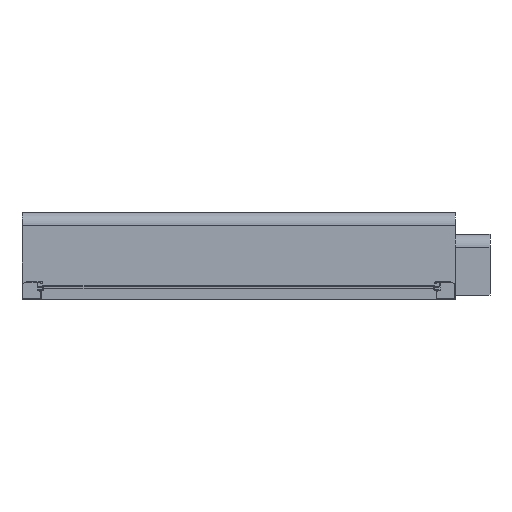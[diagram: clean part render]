
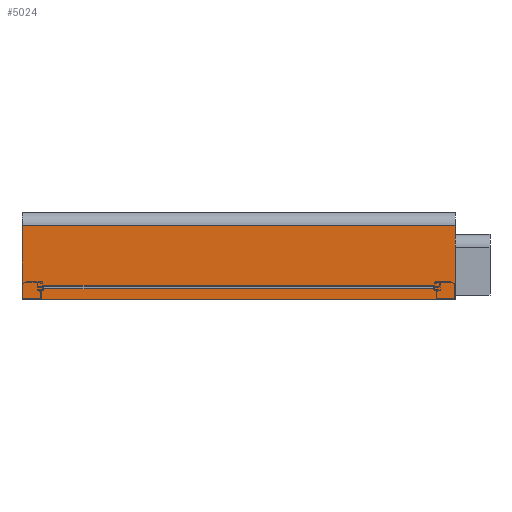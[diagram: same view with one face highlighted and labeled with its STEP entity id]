
A CAD part, front view. The second image highlights one B-rep face of the part: STEP entity #5024.
In plain terms, the highlighted planar face has unit normal (0, -1, 0).
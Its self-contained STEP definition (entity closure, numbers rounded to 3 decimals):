
#71 = CARTESIAN_POINT ( 'NONE',  ( 2500., 3000., 0. ) ) ;
#191 = LINE ( 'NONE', #12421, #10319 ) ;
#798 = VERTEX_POINT ( 'NONE', #3111 ) ;
#1491 = ORIENTED_EDGE ( 'NONE', *, *, #6504, .T. ) ;
#2123 = ORIENTED_EDGE ( 'NONE', *, *, #8708, .F. ) ;
#2347 = CARTESIAN_POINT ( 'NONE',  ( 0., 3000., 0. ) ) ;
#2594 = VERTEX_POINT ( 'NONE', #7973 ) ;
#3111 = CARTESIAN_POINT ( 'NONE',  ( 0., 3000., 0. ) ) ;
#3363 = CARTESIAN_POINT ( 'NONE',  ( 2500., 3000., 0. ) ) ;
#3651 = CARTESIAN_POINT ( 'NONE',  ( 2500., 3000., 425. ) ) ;
#3907 = ORIENTED_EDGE ( 'NONE', *, *, #8310, .T. ) ;
#5024 = ADVANCED_FACE ( 'NONE', ( #8321 ), #7724, .F. ) ;
#5938 = CARTESIAN_POINT ( 'NONE',  ( 0., 3000., 425. ) ) ;
#5971 = VECTOR ( 'NONE', #6592, 1000. ) ;
#5981 = VERTEX_POINT ( 'NONE', #13602 ) ;
#6504 = EDGE_CURVE ( 'NONE', #12177, #798, #11953, .T. ) ;
#6592 = DIRECTION ( 'NONE',  ( 0., 0., -1. ) ) ;
#6899 = DIRECTION ( 'NONE',  ( 0., 0., 1. ) ) ;
#6959 = DIRECTION ( 'NONE',  ( -1., 0., 0. ) ) ;
#7264 = VECTOR ( 'NONE', #10952, 1000. ) ;
#7724 = PLANE ( 'NONE',  #13331 ) ;
#7944 = ORIENTED_EDGE ( 'NONE', *, *, #9639, .F. ) ;
#7973 = CARTESIAN_POINT ( 'NONE',  ( 2500., 3000., 0. ) ) ;
#8135 = EDGE_LOOP ( 'NONE', ( #1491, #2123, #7944, #3907 ) ) ;
#8310 = EDGE_CURVE ( 'NONE', #5981, #12177, #13961, .T. ) ;
#8321 = FACE_OUTER_BOUND ( 'NONE', #8135, .T. ) ;
#8708 = EDGE_CURVE ( 'NONE', #2594, #798, #191, .T. ) ;
#8942 = VECTOR ( 'NONE', #11386, 1000. ) ;
#9639 = EDGE_CURVE ( 'NONE', #5981, #2594, #12201, .T. ) ;
#10319 = VECTOR ( 'NONE', #6959, 1000. ) ;
#10952 = DIRECTION ( 'NONE',  ( 0., 0., -1. ) ) ;
#11048 = DIRECTION ( 'NONE',  ( 0., 1., 0. ) ) ;
#11386 = DIRECTION ( 'NONE',  ( -1., 0., 0. ) ) ;
#11953 = LINE ( 'NONE', #2347, #7264 ) ;
#12177 = VERTEX_POINT ( 'NONE', #5938 ) ;
#12201 = LINE ( 'NONE', #71, #5971 ) ;
#12421 = CARTESIAN_POINT ( 'NONE',  ( 2500., 3000., 0. ) ) ;
#13331 = AXIS2_PLACEMENT_3D ( 'NONE', #3363, #11048, #6899 ) ;
#13602 = CARTESIAN_POINT ( 'NONE',  ( 2500., 3000., 425. ) ) ;
#13961 = LINE ( 'NONE', #3651, #8942 ) ;
